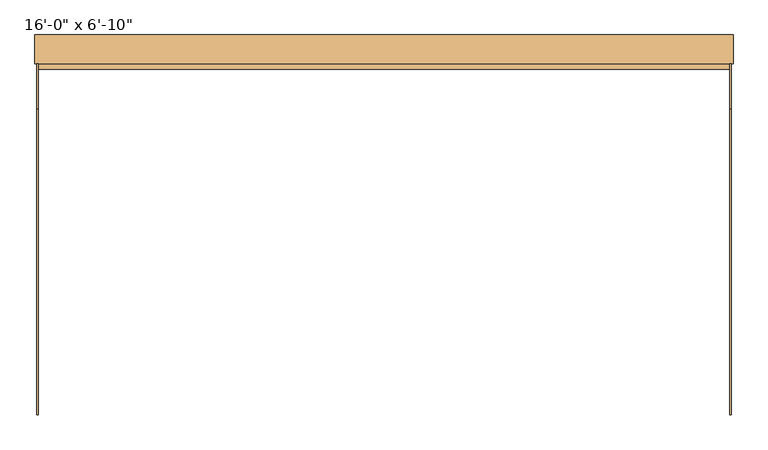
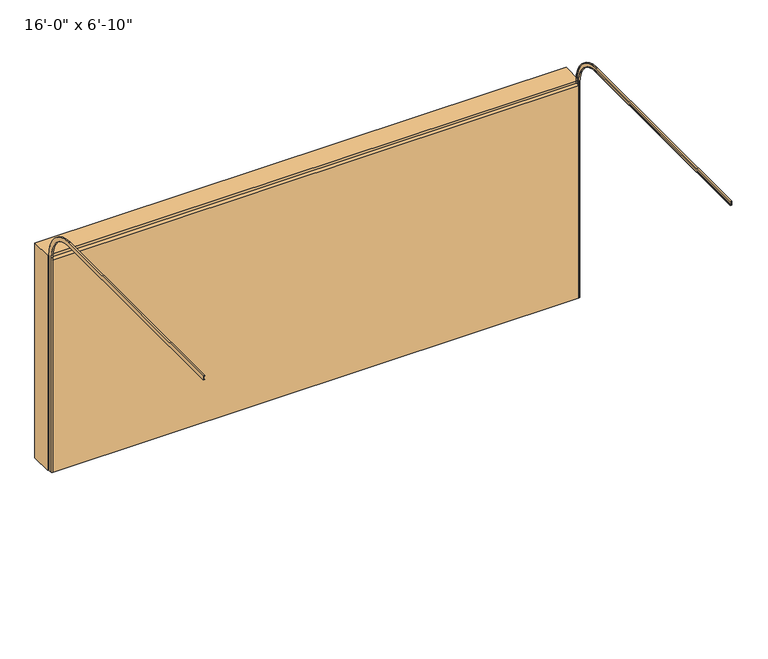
"""IFC4 building model written with IfcOpenShell, lengths in millimetres: door geometry."""

import ifcopenshell
import ifcopenshell.guid

model = None  # the IFC model being written
_history = None  # IfcOwnerHistory: only IFC2X3 demands one
_inside = {}  # id of a spatial element -> (the spatial element, [elements in it])
_under = {}  # id of a project, library or spatial element -> (it, [spatial elements below it])
_declared = {}  # id of a project -> (the project, [libraries it declares])
_typed = {}  # id of a type object -> (the type object, [elements of that type])
_made_of = {}  # id of a material, layer set ... -> (it, [elements and type objects made of it])


def new_model(schema):
    """Start an empty IFC model of exactly this schema.

    Asked for "IFC4X3", IfcOpenShell would pick the latest addendum, in which some entities
    have other attributes; the version numbers below select the first issue.
    IFC2X3 requires an IfcOwnerHistory on every rooted entity: one is made here for all.
    """
    global model, _history
    if schema == "IFC4X3":
        model = ifcopenshell.file(schema_version=(4, 3, 0, 0))
    else:
        model = ifcopenshell.file(schema=schema)
    _inside.clear()
    _under.clear()
    _declared.clear()
    _typed.clear()
    _made_of.clear()
    _history = None
    if model.schema == "IFC2X3":
        org = make("IfcOrganization", Name="unknown")
        user = make(
            "IfcPersonAndOrganization",
            ThePerson=make("IfcPerson", FamilyName="unknown"),
            TheOrganization=org,
        )
        app = make(
            "IfcApplication",
            ApplicationDeveloper=org,
            Version="unknown",
            ApplicationFullName="unknown",
            ApplicationIdentifier="unknown",
        )
        _history = make(
            "IfcOwnerHistory",
            OwningUser=user,
            OwningApplication=app,
            ChangeAction="ADDED",
            CreationDate=0,
        )
    return model


def make(cls, **values):
    """One entity of the class cls with the attributes given. An attribute that is None is left unset."""
    return model.create_entity(
        cls, **{name: value for name, value in values.items() if value is not None}
    )


def rooted(cls, **values):
    """An entity with a GlobalId (a new one), such as an element, a storey or a relation."""
    return make(cls, GlobalId=ifcopenshell.guid.new(), OwnerHistory=_history, **values)


def si_unit(unit_type, name, prefix=None):
    """IfcSIUnit, for example si_unit("LENGTHUNIT", "METRE", prefix="MILLI")."""
    return make("IfcSIUnit", UnitType=unit_type, Prefix=prefix, Name=name)


def assignment(units):
    """IfcUnitAssignment: the units of a project."""
    return None if units is None else make("IfcUnitAssignment", Units=units)


def point(xyz):
    """IfcCartesianPoint."""
    return None if xyz is None else make("IfcCartesianPoint", Coordinates=xyz)


def direction(xyz):
    """IfcDirection."""
    return None if xyz is None else make("IfcDirection", DirectionRatios=xyz)


def frame(location, z_axis=None, x_axis=None):
    """IfcAxis2Placement3D, a coordinate frame: its origin and axes. An axis left out is left unset."""
    return make(
        "IfcAxis2Placement3D",
        Location=point(location),
        Axis=direction(z_axis),
        RefDirection=direction(x_axis),
    )


def origin():
    """The frame at (0, 0, 0) with its axes left unset."""
    return frame((0.0, 0.0, 0.0))


def origin_with_axes():
    """The frame at (0, 0, 0) with the z axis (0, 0, 1) and the x axis (1, 0, 0) written out."""
    return frame((0.0, 0.0, 0.0), z_axis=(0.0, 0.0, 1.0), x_axis=(1.0, 0.0, 0.0))


def place(relative_to, where):
    """IfcLocalPlacement: puts the frame where relative to a parent placement (None: the world)."""
    return make(
        "IfcLocalPlacement", PlacementRelTo=relative_to, RelativePlacement=where
    )


def context(
    kind, dimensions, precision=None, world=None, true_north=None, identifier=None
):
    """IfcGeometricRepresentationContext, for example the 3D "Model" context."""
    return make(
        "IfcGeometricRepresentationContext",
        ContextIdentifier=identifier,
        ContextType=kind,
        CoordinateSpaceDimension=dimensions,
        Precision=precision,
        WorldCoordinateSystem=world,
        TrueNorth=true_north,
    )


def project(units=None, contexts=None):
    """IfcProject with its units and contexts."""
    return rooted(
        "IfcProject",
        Name="project",
        RepresentationContexts=contexts,
        UnitsInContext=assignment(units),
    )


def spatial(cls, under=None, at=None, **own):
    """A site, building, storey or space (cls), placed at a placement, below another one or the project."""
    s = rooted(cls, ObjectPlacement=at, **own)
    if under is not None:
        _under.setdefault(under.id(), (under, []))[1].append(s)
    return s


def polyline(points):
    """IfcPolyline through the points."""
    return make("IfcPolyline", Points=[point(p) for p in points])


def circle_curve(where, radius):
    """IfcCircle in the frame where."""
    return make("IfcCircle", Position=where, Radius=radius)


def outline(outer, holes=None, kind="AREA"):
    """IfcArbitraryClosedProfileDef: a profile drawn as a closed curve; with holes, ...WithVoids."""
    if holes is None:
        return make("IfcArbitraryClosedProfileDef", ProfileType=kind, OuterCurve=outer)
    return make(
        "IfcArbitraryProfileDefWithVoids",
        ProfileType=kind,
        OuterCurve=outer,
        InnerCurves=holes,
    )


def extrude(swept, where, along, depth):
    """IfcExtrudedAreaSolid: the profile swept, set in the frame where, extruded along a direction by depth."""
    return make(
        "IfcExtrudedAreaSolid",
        SweptArea=swept,
        Position=where,
        ExtrudedDirection=direction(along),
        Depth=depth,
    )


def shape(context_of_items, identifier, shape_type, items):
    """IfcShapeRepresentation: the items that make up one representation, for example the "Body"."""
    return make(
        "IfcShapeRepresentation",
        ContextOfItems=context_of_items,
        RepresentationIdentifier=identifier,
        RepresentationType=shape_type,
        Items=items,
    )


def source(mapping_origin, context_of_items, identifier, shape_type, items):
    """IfcRepresentationMap: a shape defined once, which mapped items show again and again."""
    return make(
        "IfcRepresentationMap",
        MappingOrigin=mapping_origin,
        MappedRepresentation=shape(context_of_items, identifier, shape_type, items),
    )


def transform(
    local_origin,
    x_axis=None,
    y_axis=None,
    z_axis=None,
    scale=None,
    scale2=None,
    scale3=None,
    uniform=True,
):
    """IfcCartesianTransformationOperator3D, or its non-uniform kind. x_axis, y_axis, z_axis: its Axis1, 2, 3."""
    if uniform:
        return make(
            "IfcCartesianTransformationOperator3D",
            Axis1=direction(x_axis),
            Axis2=direction(y_axis),
            LocalOrigin=point(local_origin),
            Scale=scale,
            Axis3=direction(z_axis),
        )
    return make(
        "IfcCartesianTransformationOperator3DnonUniform",
        Axis1=direction(x_axis),
        Axis2=direction(y_axis),
        LocalOrigin=point(local_origin),
        Scale=scale,
        Axis3=direction(z_axis),
        Scale2=scale2,
        Scale3=scale3,
    )


def mapped(mapping_source, mapping_target):
    """IfcMappedItem: shows the shape of a source again, moved by a transform."""
    return make(
        "IfcMappedItem", MappingSource=mapping_source, MappingTarget=mapping_target
    )


def made_of(thing, what):
    """Note that an element or type object is made of a material, layer set ...; save() writes the relation."""
    if what is not None:
        _made_of.setdefault(what.id(), (what, []))[1].append(thing)
    return thing


def element(
    cls,
    number,
    at=None,
    inside=None,
    cuts=None,
    type_object=None,
    material=None,
    context=None,
    identifier="Body",
    shape_type=None,
    held_by="IfcProductDefinitionShape",
    body=None,
    shapes=None,
    **own,
):
    """One element of the class cls, such as IfcWall. Its Tag is "e" and its number.

    at: its placement. inside: the storey or other place that contains it. cuts: it is an
    opening in that element (IfcRelVoidsElement). A single representation is given by context,
    identifier, shape_type and body (its items); several are given by shapes. held_by: the class
    of the entity that holds the representations. save() writes the other relations.
    """
    e = rooted(cls, Tag="e%d" % number, ObjectPlacement=at, **own)
    if body is not None:
        shapes = [shape(context, identifier, shape_type, body)]
    if shapes is not None:
        e.Representation = make(held_by, Representations=shapes)
    if inside is not None:
        _inside.setdefault(inside.id(), (inside, []))[1].append(e)
    if cuts is not None:
        rooted(
            "IfcRelVoidsElement", RelatingBuildingElement=cuts, RelatedOpeningElement=e
        )
    if type_object is not None:
        _typed.setdefault(type_object.id(), (type_object, []))[1].append(e)
    return made_of(e, material)


def aggregate(whole, parts):
    """IfcRelAggregates: a whole, such as a stair, and the parts it consists of."""
    return rooted("IfcRelAggregates", RelatingObject=whole, RelatedObjects=parts)


def save(model, path):
    """Write the relations noted so far, then the file.

    IfcRelAggregates (storeys below a building ...), IfcRelContainedInSpatialStructure (elements
    in a storey), IfcRelDefinesByType, IfcRelAssociatesMaterial and IfcRelDeclares: one each for
    every whole, place, type object, material and project.
    """
    for whole, parts in _under.values():
        aggregate(whole, parts)
    for where, things in _inside.values():
        rooted(
            "IfcRelContainedInSpatialStructure",
            RelatedElements=things,
            RelatingStructure=where,
        )
    for kind, things in _typed.values():
        rooted("IfcRelDefinesByType", RelatedObjects=things, RelatingType=kind)
    for what, things in _made_of.values():
        rooted("IfcRelAssociatesMaterial", RelatedObjects=things, RelatingMaterial=what)
    for by, libraries in _declared.values():
        rooted("IfcRelDeclares", RelatingContext=by, RelatedDefinitions=libraries)
    model.write(path)


def plane_surface(at):
    """IfcPlane: the flat surface through the origin of the frame at, square to its z axis."""
    return make("IfcPlane", Position=at)


def cylinder_surface(at, radius):
    """IfcCylindricalSurface: all points at the distance radius from the z axis of the frame at."""
    return make("IfcCylindricalSurface", Position=at, Radius=radius)


def revolved_surface(curve, axis_point, axis_direction):
    """IfcSurfaceOfRevolution: the curve turned about the line through axis_point along axis_direction."""
    return make(
        "IfcSurfaceOfRevolution",
        SweptCurve=make("IfcArbitraryOpenProfileDef", ProfileType="CURVE", Curve=curve),
        AxisPosition=make("IfcAxis1Placement", Location=point(axis_point), Axis=direction(axis_direction)),
    )


def advanced_brep(points, edges, surfaces, faces):
    """IfcAdvancedBrep: a solid bounded by faces that lie on surfaces and meet in shared edges.

    An edge is (start, end): straight between two places in points (the first is 0);
    or (start, end, curve); or (start, end, curve, False) where it runs against its curve.
    A face is (place in surfaces, loops), or (place, loops, False) where it looks against
    its surface's normal. A loop lists edges by number (the first is 1), with a minus sign
    where the edge is run from its end to its start. The first loop is the outer one.
    """
    corners = [point(p) for p in points]
    vertices = [make("IfcVertexPoint", VertexGeometry=c) for c in corners]
    made = []
    for start, end, *more in edges:
        made.append(
            make(
                "IfcEdgeCurve",
                EdgeStart=vertices[start],
                EdgeEnd=vertices[end],
                EdgeGeometry=more[0] if more else make("IfcPolyline", Points=[corners[start], corners[end]]),
                SameSense=more[1] if len(more) > 1 else True,
            )
        )
    hull = []
    for where, loops, *sense in faces:
        bounds = []
        for j, loop in enumerate(loops):
            ring = [make("IfcOrientedEdge", EdgeElement=made[abs(k) - 1], Orientation=k > 0) for k in loop]
            bounds.append(
                make(
                    "IfcFaceOuterBound" if j == 0 else "IfcFaceBound",
                    Bound=make("IfcEdgeLoop", EdgeList=ring),
                    Orientation=True,
                )
            )
        hull.append(make("IfcAdvancedFace", Bounds=bounds, FaceSurface=surfaces[where], SameSense=sense[0] if sense else True))
    return make("IfcAdvancedBrep", Outer=make("IfcClosedShell", CfsFaces=hull))


def door_56aae4db(model_context):
    return source(origin(), model_context, "Body", "SolidModel", [
        advanced_brep(
        [(2451.1, -144.775, 0.0), (2438.4, -144.775, 0.0), (2438.4, -141.6, 0.0), (2447.925, -141.6, 0.0), (2447.925, -107.975, 0.0), (2438.4, -107.975, 0.0), (2438.4, -104.775, 0.0), (2451.1, -104.775, 0.0), (2451.1, -144.775, 2107.8), (2438.4, -144.775, 2107.8), (2438.4, -424.175, 2387.2), (2438.4, -2583.175, 2387.2), (2438.4, -2583.175, 2390.375), (2438.4, -424.175, 2390.375), (2438.4, -141.6, 2107.8), (2447.925, -141.6, 2107.8), (2447.925, -424.175, 2390.375), (2447.925, -2583.175, 2390.375), (2447.925, -2583.175, 2424.0), (2447.925, -424.175, 2424.0), (2447.925, -107.975, 2107.8), (2438.4, -107.975, 2107.8), (2438.4, -424.175, 2424.0), (2438.4, -2583.175, 2424.0), (2438.4, -2583.175, 2427.2), (2438.4, -424.175, 2427.2), (2438.4, -104.775, 2107.8), (2451.1, -104.775, 2107.8), (2451.1, -424.175, 2427.2), (2451.1, -2583.175, 2427.2), (2451.1, -2583.175, 2387.2), (2451.1, -424.175, 2387.2)],
        [
            (0, 1),
            (1, 2),
            (2, 3),
            (3, 4),
            (4, 5),
            (5, 6),
            (6, 7),
            (7, 0),
            (0, 8),
            (8, 9),
            (9, 1),
            (9, 10, circle_curve(frame((2438.4, -424.175, 2107.8), z_axis=(1.0, 0.0, 0.0), x_axis=(0.0, 1.0, 0.0)), 279.4)),
            (10, 11),
            (11, 12),
            (12, 13),
            (13, 14, circle_curve(frame((2438.4, -424.175, 2107.8), z_axis=(-1.0, 0.0, 0.0), x_axis=(0.0, 1.0, 0.0)), 282.575)),
            (14, 2),
            (14, 15),
            (15, 3),
            (15, 16, circle_curve(frame((2447.925, -424.175, 2107.8), z_axis=(1.0, 0.0, 0.0), x_axis=(0.0, 1.0, 0.0)), 282.575)),
            (16, 17),
            (17, 18),
            (18, 19),
            (19, 20, circle_curve(frame((2447.925, -424.175, 2107.8), z_axis=(-1.0, 0.0, 0.0), x_axis=(0.0, 1.0, 0.0)), 316.2)),
            (20, 4),
            (20, 21),
            (21, 5),
            (21, 22, circle_curve(frame((2438.4, -424.175, 2107.8), z_axis=(1.0, 0.0, 0.0), x_axis=(0.0, 1.0, 0.0)), 316.2)),
            (22, 23),
            (23, 24),
            (24, 25),
            (25, 26, circle_curve(frame((2438.4, -424.175, 2107.8), z_axis=(-1.0, 0.0, 0.0), x_axis=(0.0, 1.0, 0.0)), 319.4)),
            (26, 6),
            (26, 27),
            (27, 7),
            (27, 28, circle_curve(frame((2451.1, -424.175, 2107.8), z_axis=(1.0, 0.0, 0.0), x_axis=(0.0, 1.0, 0.0)), 319.4)),
            (28, 29),
            (29, 30),
            (30, 31),
            (31, 8, circle_curve(frame((2451.1, -424.175, 2107.8), z_axis=(-1.0, 0.0, 0.0), x_axis=(0.0, 1.0, 0.0)), 279.4)),
            (31, 10),
            (13, 16),
            (19, 22),
            (25, 28),
            (29, 24),
            (23, 18),
            (17, 12),
            (11, 30),
        ],
        [
            plane_surface(frame((0.0, -144.775, 0.0), z_axis=(0.0, 0.0, -1.0), x_axis=(1.0, 0.0, 0.0))),
            plane_surface(frame((2451.1, -144.775, 0.0), z_axis=(0.0, -1.0, 0.0), x_axis=(0.0, 0.0, 1.0))),
            plane_surface(frame((2438.4, -144.775, 0.0), z_axis=(-1.0, 0.0, 0.0), x_axis=(0.0, 0.0, 1.0))),
            plane_surface(frame((2438.4, -141.6, 0.0), z_axis=(0.0, 1.0, 0.0), x_axis=(0.0, 0.0, 1.0))),
            plane_surface(frame((2447.925, -141.6, 0.0), z_axis=(-1.0, 0.0, 0.0), x_axis=(0.0, 0.0, 1.0))),
            plane_surface(frame((2447.925, -107.975, 0.0), z_axis=(0.0, -1.0, 0.0), x_axis=(0.0, 0.0, 1.0))),
            plane_surface(frame((2438.4, -107.975, 0.0), z_axis=(-1.0, 0.0, 0.0), x_axis=(0.0, 0.0, 1.0))),
            plane_surface(frame((2438.4, -104.775, 0.0), z_axis=(0.0, 1.0, 0.0), x_axis=(0.0, 0.0, 1.0))),
            plane_surface(frame((2451.1, -104.775, 0.0), z_axis=(1.0, 0.0, 0.0), x_axis=(0.0, 0.0, 1.0))),
            revolved_surface(polyline([(2451.1, -144.77500000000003, 2107.8), (2438.4, -144.77500000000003, 2107.8)]), (0.0, -424.175, 2107.8), (1.0, 0.0, 0.0)),
            cylinder_surface(frame((0.0, -424.175, 2107.8), z_axis=(1.0, 0.0, 0.0), x_axis=(0.0, 1.0, 0.0)), 282.575),
            revolved_surface(polyline([(2447.925, -107.97500000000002, 2107.8), (2438.4, -107.97500000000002, 2107.8)]), (0.0, -424.175, 2107.8), (1.0, 0.0, 0.0)),
            cylinder_surface(frame((0.0, -424.175, 2107.8), z_axis=(1.0, 0.0, 0.0), x_axis=(0.0, 1.0, 0.0)), 319.4),
            plane_surface(frame((0.0, -2583.175, 2387.2), z_axis=(0.0, -1.0, 0.0), x_axis=(1.0, 0.0, 0.0))),
            plane_surface(frame((2451.1, -424.175, 2387.2), z_axis=(0.0, 0.0, -1.0), x_axis=(0.0, -1.0, 0.0))),
            plane_surface(frame((2438.4, -424.175, 2390.375), z_axis=(0.0, 0.0, 1.0), x_axis=(0.0, -1.0, 0.0))),
            plane_surface(frame((2447.925, -424.175, 2424.0), z_axis=(0.0, 0.0, -1.0), x_axis=(0.0, -1.0, 0.0))),
            plane_surface(frame((2438.4, -424.175, 2427.2), z_axis=(0.0, 0.0, 1.0), x_axis=(0.0, -1.0, 0.0))),
        ],
        [
            (0, [[1, 2, 3, 4, 5, 6, 7, 8]]),
            (1, [[-1, 9, 10, 11]]),
            (2, [[-2, -11, 12, 13, 14, 15, 16, 17]]),
            (3, [[-3, -17, 18, 19]]),
            (4, [[-4, -19, 20, 21, 22, 23, 24, 25]]),
            (5, [[-5, -25, 26, 27]]),
            (6, [[-6, -27, 28, 29, 30, 31, 32, 33]]),
            (7, [[-7, -33, 34, 35]]),
            (8, [[-8, -35, 36, 37, 38, 39, 40, -9]]),
            (9, [[-12, -10, -40, 41]]),
            (10, [[-20, -18, -16, 42]]),
            (11, [[-28, -26, -24, 43]]),
            (12, [[-36, -34, -32, 44]]),
            (13, [[-38, 45, -30, 46, -22, 47, -14, 48]]),
            (14, [[-41, -39, -48, -13]]),
            (15, [[-42, -15, -47, -21]]),
            (16, [[-43, -23, -46, -29]]),
            (17, [[-44, -31, -45, -37]]),
        ],
    ),
        advanced_brep(
        [(-2451.1, -144.775, 0.0), (-2451.1, -104.775, 0.0), (-2438.4, -104.775, 0.0), (-2438.4, -107.975, 0.0), (-2447.925, -107.975, 0.0), (-2447.925, -141.6, 0.0), (-2438.4, -141.6, 0.0), (-2438.4, -144.775, 0.0), (-2451.1, -144.775, 2107.8), (-2451.1, -424.175, 2387.2), (-2451.1, -2583.175, 2387.2), (-2451.1, -2583.175, 2427.2), (-2451.1, -424.175, 2427.2), (-2451.1, -104.775, 2107.8), (-2438.4, -104.775, 2107.8), (-2438.4, -424.175, 2427.2), (-2438.4, -2583.175, 2427.2), (-2438.4, -2583.175, 2424.0), (-2438.4, -424.175, 2424.0), (-2438.4, -107.975, 2107.8), (-2447.925, -107.975, 2107.8), (-2447.925, -424.175, 2424.0), (-2447.925, -2583.175, 2424.0), (-2447.925, -2583.175, 2390.375), (-2447.925, -424.175, 2390.375), (-2447.925, -141.6, 2107.8), (-2438.4, -141.6, 2107.8), (-2438.4, -424.175, 2390.375), (-2438.4, -2583.175, 2390.375), (-2438.4, -2583.175, 2387.2), (-2438.4, -424.175, 2387.2), (-2438.4, -144.775, 2107.8)],
        [
            (0, 1),
            (1, 2),
            (2, 3),
            (3, 4),
            (4, 5),
            (5, 6),
            (6, 7),
            (7, 0),
            (0, 8),
            (8, 9, circle_curve(frame((-2451.1, -424.175, 2107.8), z_axis=(1.0, 0.0, 0.0), x_axis=(0.0, 1.0, 0.0)), 279.4)),
            (9, 10),
            (10, 11),
            (11, 12),
            (12, 13, circle_curve(frame((-2451.1, -424.175, 2107.8), z_axis=(-1.0, 0.0, 0.0), x_axis=(0.0, 1.0, 0.0)), 319.4)),
            (13, 1),
            (13, 14),
            (14, 2),
            (14, 15, circle_curve(frame((-2438.4, -424.175, 2107.8), z_axis=(1.0, 0.0, 0.0), x_axis=(0.0, 1.0, 0.0)), 319.4)),
            (15, 16),
            (16, 17),
            (17, 18),
            (18, 19, circle_curve(frame((-2438.4, -424.175, 2107.8), z_axis=(-1.0, 0.0, 0.0), x_axis=(0.0, 1.0, 0.0)), 316.2)),
            (19, 3),
            (19, 20),
            (20, 4),
            (20, 21, circle_curve(frame((-2447.925, -424.175, 2107.8), z_axis=(1.0, 0.0, 0.0), x_axis=(0.0, 1.0, 0.0)), 316.2)),
            (21, 22),
            (22, 23),
            (23, 24),
            (24, 25, circle_curve(frame((-2447.925, -424.175, 2107.8), z_axis=(-1.0, 0.0, 0.0), x_axis=(0.0, 1.0, 0.0)), 282.575)),
            (25, 5),
            (25, 26),
            (26, 6),
            (26, 27, circle_curve(frame((-2438.4, -424.175, 2107.8), z_axis=(1.0, 0.0, 0.0), x_axis=(0.0, 1.0, 0.0)), 282.575)),
            (27, 28),
            (28, 29),
            (29, 30),
            (30, 31, circle_curve(frame((-2438.4, -424.175, 2107.8), z_axis=(-1.0, 0.0, 0.0), x_axis=(0.0, 1.0, 0.0)), 279.4)),
            (31, 7),
            (31, 8),
            (12, 15),
            (18, 21),
            (24, 27),
            (30, 9),
            (10, 29),
            (28, 23),
            (22, 17),
            (16, 11),
        ],
        [
            plane_surface(frame((0.0, -144.775, 0.0), z_axis=(0.0, 0.0, -1.0), x_axis=(1.0, 0.0, 0.0))),
            plane_surface(frame((-2451.1, -144.775, 0.0), z_axis=(-1.0, 0.0, 0.0), x_axis=(0.0, 0.0, 1.0))),
            plane_surface(frame((-2451.1, -104.775, 0.0), z_axis=(0.0, 1.0, 0.0), x_axis=(0.0, 0.0, 1.0))),
            plane_surface(frame((-2438.4, -104.775, 0.0), z_axis=(1.0, 0.0, 0.0), x_axis=(0.0, 0.0, 1.0))),
            plane_surface(frame((-2438.4, -107.975, 0.0), z_axis=(0.0, -1.0, 0.0), x_axis=(0.0, 0.0, 1.0))),
            plane_surface(frame((-2447.925, -107.975, 0.0), z_axis=(1.0, 0.0, 0.0), x_axis=(0.0, 0.0, 1.0))),
            plane_surface(frame((-2447.925, -141.6, 0.0), z_axis=(0.0, 1.0, 0.0), x_axis=(0.0, 0.0, 1.0))),
            plane_surface(frame((-2438.4, -141.6, 0.0), z_axis=(1.0, 0.0, 0.0), x_axis=(0.0, 0.0, 1.0))),
            plane_surface(frame((-2438.4, -144.775, 0.0), z_axis=(0.0, -1.0, 0.0), x_axis=(0.0, 0.0, 1.0))),
            cylinder_surface(frame((0.0, -424.175, 2107.8), z_axis=(1.0, 0.0, 0.0), x_axis=(0.0, 1.0, 0.0)), 319.4),
            revolved_surface(polyline([(-2438.4, -107.97500000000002, 2107.8), (-2447.925, -107.97500000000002, 2107.8)]), (0.0, -424.175, 2107.8), (1.0, 0.0, 0.0)),
            cylinder_surface(frame((0.0, -424.175, 2107.8), z_axis=(1.0, 0.0, 0.0), x_axis=(0.0, 1.0, 0.0)), 282.575),
            revolved_surface(polyline([(-2438.4, -144.77500000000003, 2107.8), (-2451.1, -144.77500000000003, 2107.8)]), (0.0, -424.175, 2107.8), (1.0, 0.0, 0.0)),
            plane_surface(frame((0.0, -2583.175, 2387.2), z_axis=(0.0, -1.0, 0.0), x_axis=(1.0, 0.0, 0.0))),
            plane_surface(frame((-2451.1, -424.175, 2427.2), z_axis=(0.0, 0.0, 1.0), x_axis=(0.0, -1.0, 0.0))),
            plane_surface(frame((-2438.4, -424.175, 2424.0), z_axis=(0.0, 0.0, -1.0), x_axis=(0.0, -1.0, 0.0))),
            plane_surface(frame((-2447.925, -424.175, 2390.375), z_axis=(0.0, 0.0, 1.0), x_axis=(0.0, -1.0, 0.0))),
            plane_surface(frame((-2438.4, -424.175, 2387.2), z_axis=(0.0, 0.0, -1.0), x_axis=(0.0, -1.0, 0.0))),
        ],
        [
            (0, [[1, 2, 3, 4, 5, 6, 7, 8]]),
            (1, [[-1, 9, 10, 11, 12, 13, 14, 15]]),
            (2, [[-2, -15, 16, 17]]),
            (3, [[-3, -17, 18, 19, 20, 21, 22, 23]]),
            (4, [[-4, -23, 24, 25]]),
            (5, [[-5, -25, 26, 27, 28, 29, 30, 31]]),
            (6, [[-6, -31, 32, 33]]),
            (7, [[-7, -33, 34, 35, 36, 37, 38, 39]]),
            (8, [[-8, -39, 40, -9]]),
            (9, [[-18, -16, -14, 41]]),
            (10, [[-26, -24, -22, 42]]),
            (11, [[-34, -32, -30, 43]]),
            (12, [[-10, -40, -38, 44]]),
            (13, [[45, -36, 46, -28, 47, -20, 48, -12]]),
            (14, [[-41, -13, -48, -19]]),
            (15, [[-42, -21, -47, -27]]),
            (16, [[-43, -29, -46, -35]]),
            (17, [[-44, -37, -45, -11]]),
        ],
    ),
        extrude(outline(polyline([(0.0, 2438.4), (0.0, 2463.4), (2107.8, 2463.4), (2107.8, -2463.4), (0.0, -2463.4), (0.0, -2438.4), (2082.8, -2438.4), (2082.8, 2438.4), (0.0, 2438.4)])), frame((0.0, -104.775, 0.0), z_axis=(0.0, 1.0, 0.0), x_axis=(0.0, 0.0, 1.0)), (0.0, 0.0, 1.0), 203.2),
        extrude(outline(polyline([(2438.4, -144.775), (-2438.4, -144.775), (-2438.4, -104.775), (2438.4, -104.775), (2438.4, -144.775)])), origin_with_axes(), (0.0, 0.0, 1.0), 2082.8),
    ])


if __name__ == "__main__":
    model = new_model("IFC4")
    model_context = context("Model", 3, world=origin())
    ifc_project = project(units=[si_unit("LENGTHUNIT", "METRE", prefix="MILLI")], contexts=[model_context])
    site = spatial("IfcSite", under=ifc_project)
    building = spatial("IfcBuilding", under=site)
    placement = place(None, origin())
    door_shape = door_56aae4db(model_context)
    element("IfcDoor", 1, ObjectType="Planitar - Garage Door : 16'-0\" x 6'-10\"", at=placement, inside=building, context=model_context, shape_type="MappedRepresentation", body=[
        mapped(door_shape, transform((0.0, 0.0, 0.0), x_axis=(1.0, 0.0, 0.0), y_axis=(0.0, 1.0, 0.0), z_axis=(0.0, 0.0, 1.0))),
    ])
    save(model, "model.ifc")
